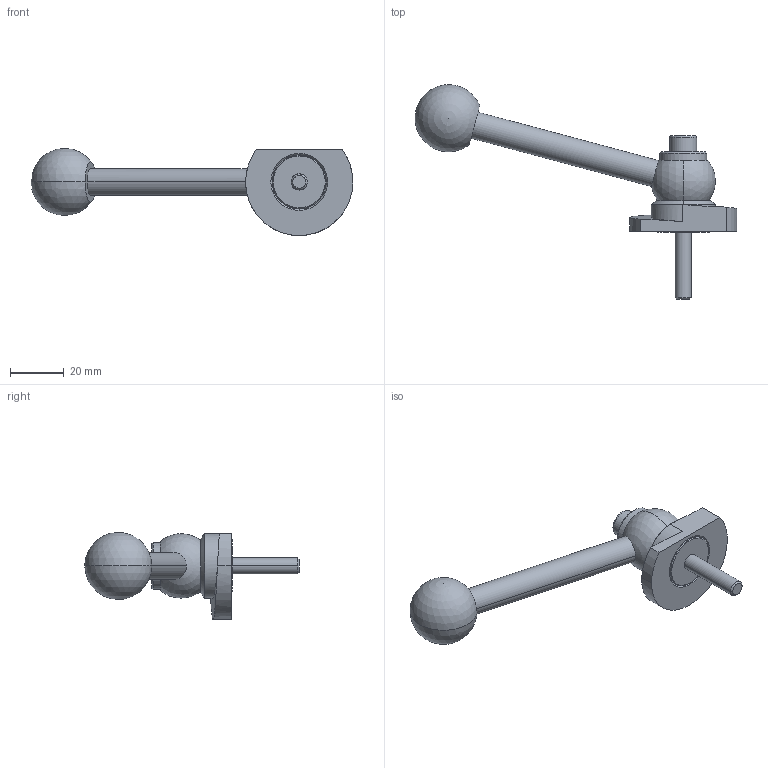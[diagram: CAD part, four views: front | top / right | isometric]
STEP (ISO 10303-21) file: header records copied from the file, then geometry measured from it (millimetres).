
FILE_DESCRIPTION (( 'STEP AP214' ), '1' );
FILE_NAME ('918.1-40-KVS-L-25.step', '2024-05-15T13:00:02', ( '' ), ( '' ), 'SwSTEP 2.0', 'SolidWorks 2022', '' );
FILE_SCHEMA (( 'AUTOMOTIVE_DESIGN' ));
Length unit declared in the file: millimetre
Products named in the file (1): 918.1-40-KVS-L-25
Bounding box: 119.95 x 79.99 x 32.5 mm (x, y, z)
Volume: 30457.1 mm3; surface area: 11307.3 mm2
Topology: 1 solids, 1 shells, 62 faces, 141 edges, 89 vertices
Faces by surface type: plane 20, cylinder 19, cone 14, sphere 4, bspline 3, torus 2
Entity records: 2003 total; most frequent: CARTESIAN_POINT 614, DIRECTION 304, ORIENTED_EDGE 262, EDGE_CURVE 131, AXIS2_PLACEMENT_3D 125, VERTEX_POINT 83, EDGE_LOOP 74, CIRCLE 65
